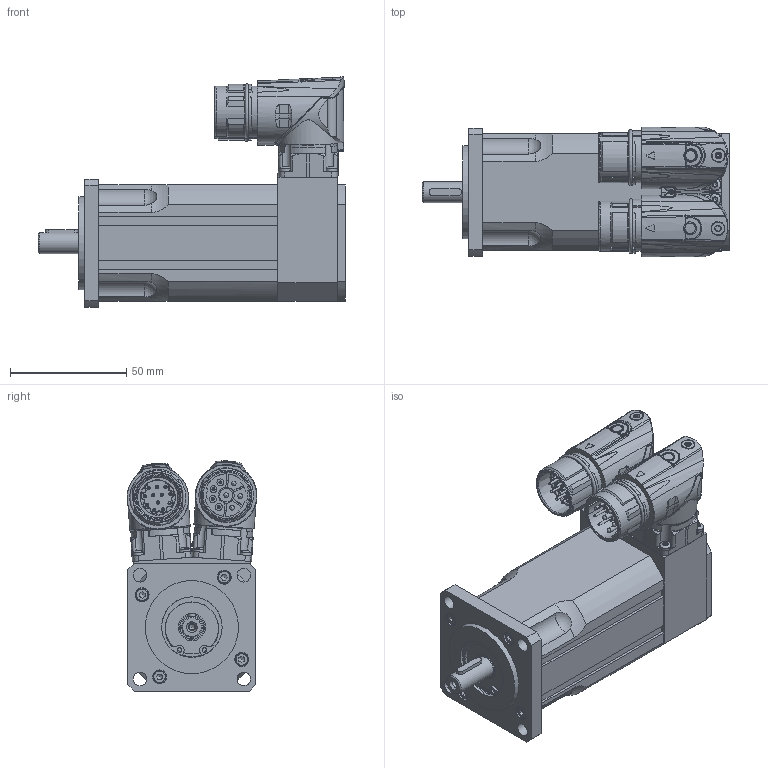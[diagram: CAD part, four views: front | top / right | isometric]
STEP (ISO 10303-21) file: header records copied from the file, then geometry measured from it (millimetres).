
FILE_DESCRIPTION(/* description */ (''),/* implementation_level */ '2;1');
FILE_NAME(/* name */ 'C:\PDF_output\N2057 00 P Z_0095_S4_S1_8P_12P.stp',/* time_stamp */ '2017-09-12T09:30:58+02:00',/* author */ ('oslejsek'),/* organization */ (''),/* preprocessor_version */ 'ST-DEVELOPER v16.13',/* originating_system */ 'Autodesk Inventor 2018',/* authorisation */ '');
FILE_SCHEMA (('AUTOMOTIVE_DESIGN { 1 0 10303 214 3 1 1 }'));
Products named in the file (9): N2057 00 P Z_0095_S4_S1_8P_12P; N2057 00 P Z_front; N2057 00 P Z_0095_rear; AED_0201_12-polig, Stift; 124888; 127323; BED_0201_8-polig, Stift; Basis 2; Basis 11
Assembly tree (8 placements, depth 3):
  N2057 00 P Z_0095_S4_S1_8P_12P
    N2057 00 P Z_front
    N2057 00 P Z_0095_rear
    AED_0201_12-polig, Stift
      124888
      127323
    BED_0201_8-polig, Stift
      Basis 2
      Basis 11
Bounding box: 132.2 x 55.85 x 98.91 mm (x, y, z)
Volume: 333804.7 mm3; surface area: 63041.4 mm2
Topology: 6 solids, 9 shells, 1799 faces, 4468 edges, 2732 vertices
Faces by surface type: cylinder 797, plane 519, bspline 251, cone 113, torus 81, sphere 38
Full cylindrical faces by diameter (mm): 1 x16, 1.18 x12, 1.2 x12, 1.3 x4, 2 x6, 2.013 x2, 2.208 x8, 2.4 x8, 2.459 x1, 2.5 x8, 2.7 x4, 2.8 x4, 3 x9, 3.1 x4, 3.2 x6, 4.5 x2, 5.5 x6, 5.6 x4, 5.8 x5, 5.9 x2, 6 x4, 6.5 x4, 6.8 x1, 7.53 x1, 9 x1, 9.5 x1, 10 x3, 15.2 x1, 17.4 x1, 17.955 x1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
Entity records: 65329 total; most frequent: CARTESIAN_POINT 23094, DIRECTION 8339, ORIENTED_EDGE 8106, EDGE_CURVE 4053, AXIS2_PLACEMENT_3D 3486, VERTEX_POINT 2627, EDGE_LOOP 2262, FACE_OUTER_BOUND 1798
